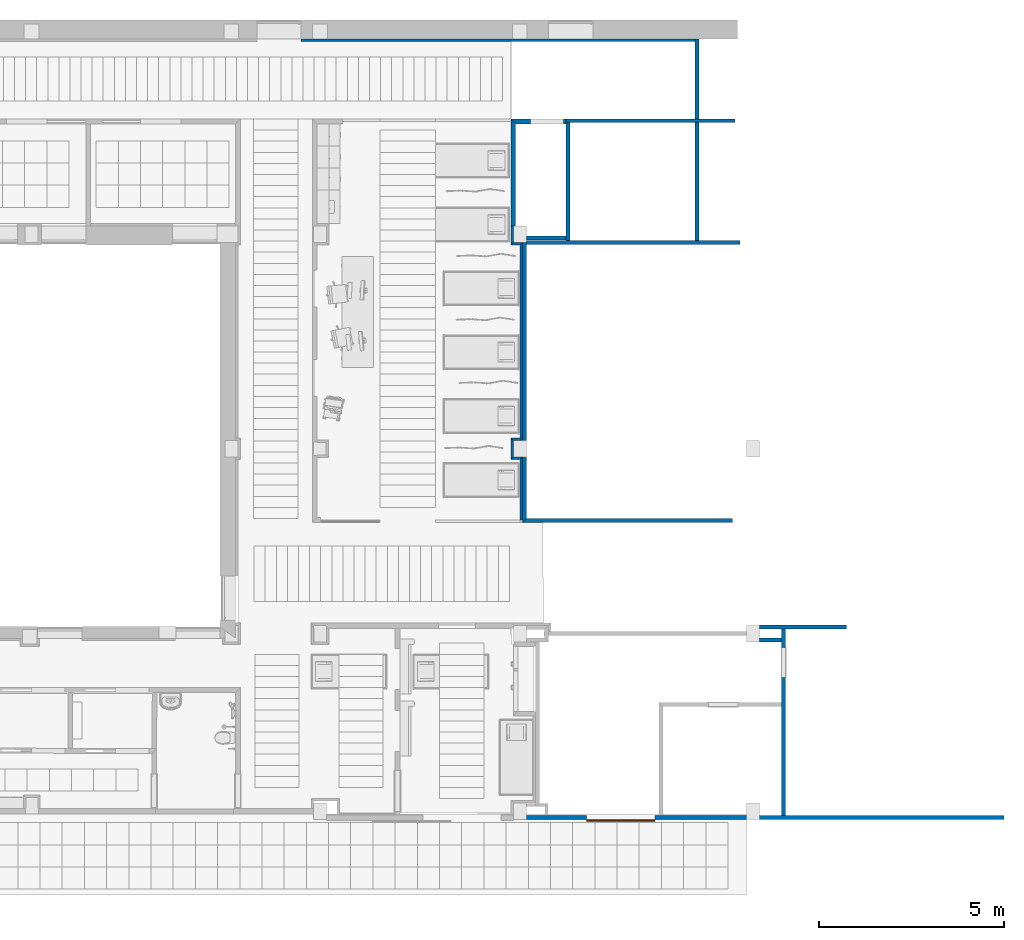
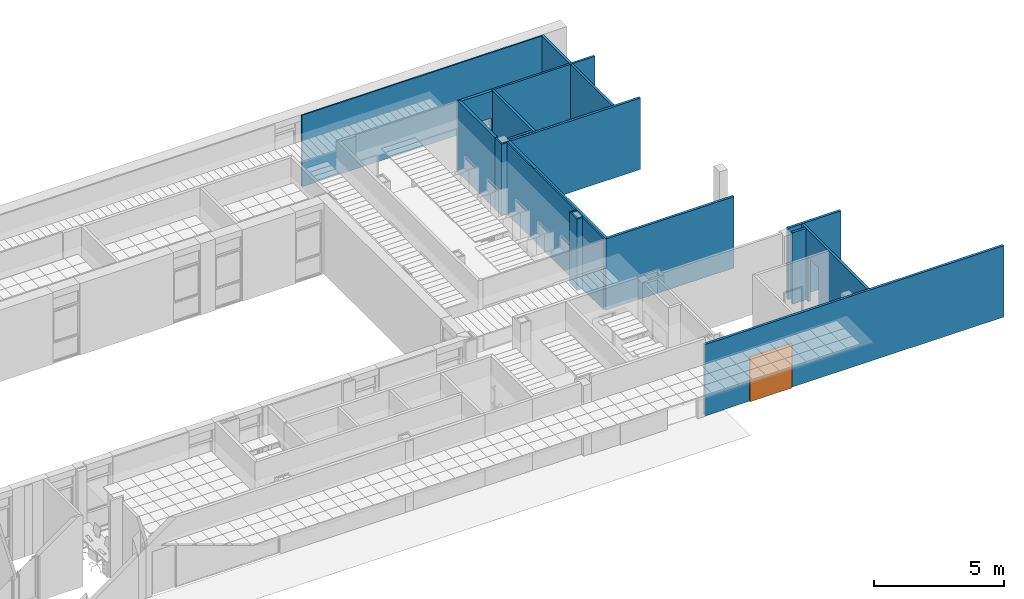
# One storey, part 46 of 68: 21 walls, 1 proxy, 3 openings.
"""IFC2X3 building model written with IfcOpenShell, lengths in millimetres."""

from ifc_helpers import new_model, entity, si_unit, converted_unit, derived_unit, money_unit, direction, frame, origin_with_axes, origin_2d_with_axis, place, context, subcontext, project, spatial, polyline, rectangle, outline, extrude, faceted_brep, material, layer, layer_set, layer_usage, type_object, element, fill, save


model = new_model("IFC2X3")

# Units and contexts
model_context = context("Model", 3, precision=0.01, world=origin_with_axes(), true_north=direction((0.0, 1.0)))
body_context = subcontext(model_context, "Body", "Model", "MODEL_VIEW")
ifc_project = project(units=[si_unit("LENGTHUNIT", "METRE", prefix="MILLI"), si_unit("AREAUNIT", "SQUARE_METRE"), si_unit("VOLUMEUNIT", "CUBIC_METRE"), converted_unit("PLANEANGLEUNIT", "DEGREE", entity("IfcPlaneAngleMeasure", 0.0174532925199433), si_unit("PLANEANGLEUNIT", "RADIAN"), dimensions=[0, 0, 0, 0, 0, 0, 0]), money_unit("USD"), converted_unit("TIMEUNIT", "Year", entity("IfcTimeMeasure", 31557600.0), si_unit("TIMEUNIT", "SECOND"), dimensions=[0, 0, 1, 0, 0, 0, 0]), si_unit("MASSUNIT", "GRAM", prefix="KILO"), si_unit("THERMODYNAMICTEMPERATUREUNIT", "DEGREE_CELSIUS"), si_unit("LUMINOUSINTENSITYUNIT", "LUMEN"), si_unit("ENERGYUNIT", "JOULE", prefix="MEGA"), derived_unit("THERMALCONDUCTANCEUNIT", [(si_unit("POWERUNIT", "WATT"), 1), (si_unit("LENGTHUNIT", "METRE"), -1), (si_unit("THERMODYNAMICTEMPERATUREUNIT", "KELVIN"), -1)]), derived_unit("SPECIFICHEATCAPACITYUNIT", [(si_unit("ENERGYUNIT", "JOULE"), 1), (si_unit("MASSUNIT", "GRAM", prefix="KILO"), -1), (si_unit("THERMODYNAMICTEMPERATUREUNIT", "KELVIN"), -1)]), derived_unit("MASSDENSITYUNIT", [(si_unit("MASSUNIT", "GRAM", prefix="KILO"), 1), (si_unit("VOLUMEUNIT", "CUBIC_METRE"), -1)])], contexts=[model_context])

# Site, building, storey
site_placement = place(None, origin_with_axes())
site = spatial("IfcSite", under=ifc_project, at=site_placement, Name="Sitio", CompositionType="ELEMENT")
building_placement = place(site_placement, origin_with_axes())
building = spatial("IfcBuilding", under=site, at=building_placement, Name="Construcción", CompositionType="ELEMENT")
storey_placement = place(building_placement, origin_with_axes())
storey = spatial("IfcBuildingStorey", under=building, at=storey_placement, Name="PLANTA 1ª", CompositionType="ELEMENT", Elevation=0.0)

# Wall, opening
ifc_material_1 = material(Name="Panel de Yeso Laminado")
ifc_layer_1 = layer(ifc_material_1, 13.0, ventilated="UNKNOWN")
ifc_layer_2 = layer(ifc_material_1, 13.0, ventilated="UNKNOWN")
ifc_material_2 = material(Name="ARQ_AI033_Aillament_Llana_De_Roca")
ifc_layer_3 = layer(ifc_material_2, 70.0, ventilated="UNKNOWN")
ifc_layer_4 = layer(ifc_material_1, 13.0, ventilated="UNKNOWN")
ifc_layer_5 = layer(ifc_material_1, 13.0, ventilated="UNKNOWN")
ifc_material_3 = material(Name="ARQ_EN271_Camara_Aire")
ifc_layer_6 = layer(ifc_material_3, 6.0, ventilated="UNKNOWN")
ifc_material_4 = material(Name="ARQ_FU093_Panellat_HPL")
ifc_layer_7 = layer(ifc_material_4, 6.0, ventilated="UNKNOWN")
ifc_layer_set_1 = layer_set([ifc_layer_1, ifc_layer_2, ifc_layer_3, ifc_layer_4, ifc_layer_5, ifc_layer_6, ifc_layer_7], Name="CR Pladur 70 HPL 1 cara")
ifc_layer_usage_1 = layer_usage(ifc_layer_set_1, "AXIS2", "POSITIVE", -134.0)
wall_type_1 = type_object("IfcWallType", Name="CR Pladur 70 HPL 1 cara 134", PredefinedType="NOTDEFINED")
wall_1_placement = place(storey_placement, frame((5763.890995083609, 1700.853055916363, 0.0), z_axis=(0.0, 0.0, 1.0), x_axis=(1.0, 0.0, 0.0)))
wall_1 = element("IfcWallStandardCase", 1, at=wall_1_placement, inside=storey, type_object=wall_type_1, material=ifc_layer_usage_1, Name="MS-212", context=body_context, shape_type="SweptSolid", body=[
    extrude(outline(polyline([(121.9999999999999, -133.9999999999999), (1490.000000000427, -133.9999999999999), (1490.000000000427, 0.0), (0.0, 0.0), (121.9999999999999, -133.9999999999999)])), origin_with_axes(), (0.0, 0.0, 1.0), 3350.0),
])
opening_1_placement = place(wall_1_placement, frame((973.4203323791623, 0.0, 0.0), z_axis=(0.0, 0.0, 1.0), x_axis=(1.0, 0.0, 0.0)))
element("IfcOpeningElement", 2, at=opening_1_placement, cuts=wall_1, Name="P-02", context=body_context, shape_type="SweptSolid", body=[
    extrude(rectangle(XDim=900.0000000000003, YDim=2100.0, at=origin_2d_with_axis()), frame((0.0, -133.9999999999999, 1050.0), z_axis=(0.0, -1.0, 0.0), x_axis=(1.0, 0.0, 0.0)), (0.0, 0.0, -1.0), 402.0),
])

# Walls
ifc_layer_8 = layer(ifc_material_1, 13.0, ventilated="UNKNOWN")
ifc_layer_9 = layer(ifc_material_1, 13.0, ventilated="UNKNOWN")
ifc_layer_10 = layer(ifc_material_2, 70.0, ventilated="UNKNOWN")
ifc_layer_11 = layer(ifc_material_1, 13.0, ventilated="UNKNOWN")
ifc_layer_12 = layer(ifc_material_1, 13.0, ventilated="UNKNOWN")
ifc_layer_set_2 = layer_set([ifc_layer_8, ifc_layer_9, ifc_layer_10, ifc_layer_11, ifc_layer_12], Name="Pladur 70 / 2N+2N")
ifc_layer_usage_2 = layer_usage(ifc_layer_set_2, "AXIS2", "POSITIVE", -122.0)
wall_type_2 = type_object("IfcWallType", Name="Pladur 70 / 2N+2N 122", PredefinedType="NOTDEFINED")
wall_2_placement = place(storey_placement, frame((5763.890995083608, -1188.975659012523, 0.0), z_axis=(0.0, 0.0, 1.0), x_axis=(0.0, 1.0, 0.0)))
element("IfcWallStandardCase", 3, at=wall_2_placement, inside=storey, type_object=wall_type_2, material=ifc_layer_usage_2, Name="MS-212", context=body_context, shape_type="SweptSolid", body=[
    extrude(outline(polyline([(0.0, -121.9999999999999), (2755.828714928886, -121.9999999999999), (2889.828714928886, 0.0), (0.0, 0.0), (0.0, -121.9999999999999)])), origin_with_axes(), (0.0, 0.0, 1.0), 3350.0),
])
ifc_material_5 = material(Name="ARQ_AM246_Arrebossat_De_Guix")
ifc_layer_13 = layer(ifc_material_5, 10.0, ventilated="UNKNOWN")
ifc_material_6 = material(Name="ARQ_CE217_Gero")
ifc_layer_14 = layer(ifc_material_6, 90.0, ventilated="UNKNOWN")
ifc_layer_15 = layer(ifc_material_5, 10.0, ventilated="UNKNOWN")
ifc_layer_set_3 = layer_set([ifc_layer_13, ifc_layer_14, ifc_layer_15], Name="CR Enva Totxana")
ifc_layer_usage_3 = layer_usage(ifc_layer_set_3, "AXIS2", "POSITIVE", 0.0)
wall_type_3 = type_object("IfcWallType", Name="CR Enva Totxana 110", PredefinedType="NOTDEFINED")
wall_3_placement = place(storey_placement, frame((6178.89099508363, -9207.420994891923, 0.0), z_axis=(0.0, 0.0, 1.0), x_axis=(1.0, 0.0, 0.0)))
element("IfcWallStandardCase", 4, at=wall_3_placement, inside=storey, type_object=wall_type_3, material=ifc_layer_usage_3, Name="MS-206", context=body_context, shape_type="SweptSolid", body=[
    extrude(outline(polyline([(-110.0000000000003, 0.0), (5580.000000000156, 0.0), (5580.000000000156, 109.9999999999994), (0.0, 109.9999999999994), (-110.0000000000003, 0.0)])), origin_with_axes(), (0.0, 0.0, 1.0), 3350.0),
])

# Wall, opening, proxy
ifc_layer_usage_4 = layer_usage(ifc_layer_set_3, "AXIS2", "POSITIVE", 0.0)
wall_4_placement = place(storey_placement, frame((5828.891047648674, -17238.97565901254, 0.0), z_axis=(0.0, 0.0, 1.0), x_axis=(1.0, 0.0, 0.0)))
wall_4 = element("IfcWallStandardCase", 5, at=wall_4_placement, inside=storey, type_object=wall_type_3, material=ifc_layer_usage_4, Name="MS-201", context=body_context, shape_type="SweptSolid", body=[
    extrude(outline(polyline([(0.0, 0.0), (13264.22835530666, 0.0), (13264.22835530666, 109.9999999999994), (0.0, 109.9999999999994), (0.0, 0.0)])), origin_with_axes(), (0.0, 0.0, 1.0), 3350.0),
])
opening_2_placement = place(wall_4_placement, frame((2898.684403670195, 0.0, 0.0), z_axis=(0.0, 0.0, 1.0), x_axis=(1.0, 0.0, 0.0)))
opening_2 = element("IfcOpeningElement", 6, at=opening_2_placement, cuts=wall_4, Name="PF-12D", context=body_context, shape_type="SweptSolid", body=[
    extrude(rectangle(XDim=1845.258154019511, YDim=2100.0, at=origin_2d_with_axis()), frame((0.0, 109.9999999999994, 1050.0), z_axis=(0.0, 1.0, 0.0), x_axis=(1.0, 0.0, 0.0)), (0.0, 0.0, -1.0), 329.9999999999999),
])
building_element_proxy_type = type_object("IfcBuildingElementProxyType", Name="Puerta Corredera Exterior 27", PredefinedType="NOTDEFINED")
proxy_placement = place(opening_2_placement, frame((922.6290770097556, 0.0, 0.0), z_axis=(0.0, 0.0, 1.0), x_axis=(-1.0, 0.0, 0.0)))
proxy = element("IfcBuildingElementProxy", 7, at=proxy_placement, inside=storey, type_object=building_element_proxy_type, Name="PF-12D", context=body_context, shape_type="Brep", body=[
    faceted_brep([(0.0, 45.00000000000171, 0.0), (1845.258154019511, 44.99999999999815, 0.0), (1845.258154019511, 4.999999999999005, 0.0), (0.0, 4.999999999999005, 0.0), (0.0, 44.99999999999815, 2100.0), (1845.258154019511, 44.99999999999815, 2100.0), (1845.258154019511, 4.999999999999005, 2100.0), (0.0, 4.999999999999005, 2100.0)], [[[0, 1, 2, 3]], [[0, 4, 5, 1]], [[1, 5, 6, 2]], [[3, 2, 6, 7]], [[4, 0, 3, 7]], [[5, 4, 7, 6]]]),
])
fill(opening_2, proxy)

# Walls
ifc_layer_usage_5 = layer_usage(ifc_layer_set_3, "AXIS2", "POSITIVE", 0.0)
wall_5_placement = place(storey_placement, frame((6178.890995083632, -1568.975823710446, 0.0), z_axis=(0.0, 0.0, 1.0), x_axis=(1.0, 0.0, 0.0)))
element("IfcWallStandardCase", 8, at=wall_5_placement, inside=storey, type_object=wall_type_3, material=ifc_layer_usage_5, Name="MS-204", context=body_context, shape_type="SweptSolid", body=[
    extrude(outline(polyline([(0.0, 0.0), (1075.000000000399, 0.0), (1075.000000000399, 110.0000000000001), (0.0, 110.0000000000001), (0.0, 0.0)])), origin_with_axes(), (0.0, 0.0, 1.0), 3350.0),
])
ifc_layer_usage_6 = layer_usage(ifc_layer_set_3, "AXIS2", "POSITIVE", 0.0)
wall_6_placement = place(storey_placement, frame((7363.890995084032, -1688.97582371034, 0.0), z_axis=(0.0, 0.0, 1.0), x_axis=(0.0, 1.0, 0.0)))
element("IfcWallStandardCase", 9, at=wall_6_placement, inside=storey, type_object=wall_type_3, material=ifc_layer_usage_6, Name="MS-203", context=body_context, shape_type="SweptSolid", body=[
    extrude(outline(polyline([(109.9999999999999, 0.0), (3299.828879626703, 0.0), (3299.828879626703, 110.0000000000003), (109.9999999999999, 110.0000000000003), (109.9999999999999, 0.0)])), origin_with_axes(), (0.0, 0.0, 1.0), 3350.0),
])
ifc_layer_usage_7 = layer_usage(ifc_layer_set_3, "AXIS2", "POSITIVE", 0.0)
wall_7_placement = place(storey_placement, frame((6178.890995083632, -1688.97582371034, 0.0), z_axis=(0.0, 0.0, 1.0), x_axis=(1.0, 0.0, 0.0)))
element("IfcWallStandardCase", 10, at=wall_7_placement, inside=storey, type_object=wall_type_3, material=ifc_layer_usage_7, Name="MS-204", context=body_context, shape_type="SweptSolid", body=[
    extrude(outline(polyline([(0.0, 0.0), (5769.99999999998, 0.0), (5769.99999999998, 109.9999999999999), (0.0, 109.9999999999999), (0.0, 0.0)])), origin_with_axes(), (0.0, 0.0, 1.0), 3350.0),
])
ifc_layer_usage_8 = layer_usage(ifc_layer_set_3, "AXIS2", "POSITIVE", 0.0)
wall_8_placement = place(storey_placement, frame((10843.89099508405, -1688.97582371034, 0.0), z_axis=(0.0, 0.0, 1.0), x_axis=(0.0, 1.0, 0.0)))
element("IfcWallStandardCase", 11, at=wall_8_placement, inside=storey, type_object=wall_type_3, material=ifc_layer_usage_8, Name="MS-203", context=body_context, shape_type="SweptSolid", body=[
    extrude(outline(polyline([(110.0000000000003, 0.0), (5552.43001029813, 0.0), (5552.43001029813, 109.9999999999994), (110.0000000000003, 109.9999999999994), (110.0000000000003, 0.0)])), origin_with_axes(), (0.0, 0.0, 1.0), 3350.0),
])

# Wall, opening
ifc_layer_usage_9 = layer_usage(ifc_layer_set_3, "AXIS2", "POSITIVE", 0.0)
wall_9_placement = place(storey_placement, frame((13078.89099508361, -12088.97582371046, 0.0), z_axis=(0.0, 0.0, 1.0), x_axis=(0.0, -1.0, 0.0)))
wall_9 = element("IfcWallStandardCase", 12, at=wall_9_placement, inside=storey, type_object=wall_type_3, material=ifc_layer_usage_9, Name="MS-207", context=body_context, shape_type="SweptSolid", body=[
    extrude(outline(polyline([(0.0, 0.0), (5039.999835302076, 0.0), (5039.999835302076, 109.9999999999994), (0.0, 109.9999999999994), (0.0, 0.0)])), origin_with_axes(), (0.0, 0.0, 1.0), 3350.0),
])
opening_3_placement = place(wall_9_placement, frame((904.6702932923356, 0.0, 0.0), z_axis=(0.0, 0.0, 1.0), x_axis=(1.0, 0.0, 0.0)))
element("IfcOpeningElement", 13, at=opening_3_placement, cuts=wall_9, Name="PF-09D", context=body_context, shape_type="SweptSolid", body=[
    extrude(rectangle(XDim=800.0000000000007, YDim=2100.0, at=origin_2d_with_axis()), frame((0.0, -109.9999999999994, 1050.0), z_axis=(0.0, -1.0, 0.0), x_axis=(-1.0, 0.0, 0.0)), (0.0, 0.0, -1.0), 329.9999999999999),
    extrude(rectangle(XDim=844.0000000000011, YDim=2122.0, at=origin_2d_with_axis()), frame((0.0, 0.0, 1061.0), z_axis=(0.0, -1.0, 0.0), x_axis=(-1.0, 0.0, 0.0)), (0.0, 0.0, 1.0), 110.0),
    extrude(rectangle(XDim=844.0000000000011, YDim=2122.0, at=origin_2d_with_axis()), frame((0.0, 109.9999999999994, 1061.0), z_axis=(0.0, 1.0, 0.0), x_axis=(-1.0, 0.0, 0.0)), (0.0, 0.0, 1.0), 110.0),
])

# Walls
ifc_layer_usage_10 = layer_usage(ifc_layer_set_3, "AXIS2", "POSITIVE", 0.0)
wall_10_placement = place(storey_placement, frame((12478.8909950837, -12088.97582371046, 0.0), z_axis=(0.0, 0.0, 1.0), x_axis=(1.0, 0.0, 0.0)))
element("IfcWallStandardCase", 14, at=wall_10_placement, inside=storey, type_object=wall_type_3, material=ifc_layer_usage_10, Name="MS-206", context=body_context, shape_type="SweptSolid", body=[
    extrude(outline(polyline([(0.0, 0.0), (2362.291522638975, 0.0), (2362.291522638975, 109.9999999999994), (0.0, 109.9999999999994), (0.0, 0.0)])), origin_with_axes(), (0.0, 0.0, 1.0), 3350.0),
])
ifc_layer_usage_11 = layer_usage(ifc_layer_set_3, "AXIS2", "POSITIVE", 0.0)
wall_11_placement = place(storey_placement, frame((12478.8909950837, -12438.97582369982, 0.0), z_axis=(0.0, 0.0, 1.0), x_axis=(1.0, 0.0, 0.0)))
element("IfcWallStandardCase", 15, at=wall_11_placement, inside=storey, type_object=wall_type_3, material=ifc_layer_usage_11, Name="MS-206", context=body_context, shape_type="SweptSolid", body=[
    extrude(outline(polyline([(0.0, 0.0), (599.999999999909, 0.0), (599.999999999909, 109.9999999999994), (0.0, 109.9999999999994), (0.0, 0.0)])), origin_with_axes(), (0.0, 0.0, 1.0), 3350.0),
])
ifc_layer_usage_12 = layer_usage(ifc_layer_set_3, "AXIS2", "POSITIVE", 0.0)
wall_12_placement = place(storey_placement, frame((6178.89099508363, -9207.420994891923, 0.0), z_axis=(0.0, 0.0, 1.0), x_axis=(0.0, 1.0, 0.0)))
element("IfcWallStandardCase", 16, at=wall_12_placement, inside=storey, type_object=wall_type_3, material=ifc_layer_usage_12, Name="MS-203", context=body_context, shape_type="SweptSolid", body=[
    extrude(outline(polyline([(109.9999999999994, 0.0), (7568.445171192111, 0.0), (7568.445171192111, 110.0000000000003), (0.0, 110.0000000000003), (109.9999999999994, 0.0)])), origin_with_axes(), (0.0, 0.0, 1.0), 3350.0),
])
ifc_layer_16 = layer(ifc_material_5, 10.0, ventilated="UNKNOWN")
ifc_layer_17 = layer(ifc_material_6, 70.0, ventilated="UNKNOWN")
ifc_layer_18 = layer(ifc_material_5, 10.0, ventilated="UNKNOWN")
ifc_layer_set_4 = layer_set([ifc_layer_16, ifc_layer_17, ifc_layer_18], Name="CR Enva Totxaneta")
ifc_layer_usage_13 = layer_usage(ifc_layer_set_4, "AXIS2", "POSITIVE", 0.0)
wall_type_4 = type_object("IfcWallType", Name="CR Enva Totxaneta 90", PredefinedType="NOTDEFINED")
wall_13_placement = place(storey_placement, frame((7253.890995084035, 1610.853055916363, 0.0), z_axis=(0.0, 0.0, 1.0), x_axis=(1.0, 0.0, 0.0)))
element("IfcWallStandardCase", 17, at=wall_13_placement, inside=storey, type_object=wall_type_4, material=ifc_layer_usage_13, Name="MS-204", context=body_context, shape_type="SweptSolid", body=[
    extrude(outline(polyline([(0.0, 0.0), (4572.292870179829, 0.0), (4572.292870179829, 90.00000000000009), (0.0, 90.00000000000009), (0.0, 0.0)])), origin_with_axes(), (0.0, 0.0, 1.0), 3350.0),
])
ifc_layer_19 = layer(ifc_material_1, 13.0, ventilated="UNKNOWN")
ifc_layer_20 = layer(ifc_material_1, 13.0, ventilated="UNKNOWN")
ifc_layer_21 = layer(ifc_material_2, 40.0, ventilated="UNKNOWN")
ifc_layer_set_5 = layer_set([ifc_layer_19, ifc_layer_20, ifc_layer_21], Name="Pladur Tras 40 / 2N")
ifc_layer_usage_14 = layer_usage(ifc_layer_set_5, "AXIS2", "POSITIVE", 0.0)
wall_type_5 = type_object("IfcWallType", Name="Pladur Tras 40 / 2N 66", PredefinedType="NOTDEFINED")
wall_14_placement = place(storey_placement, frame((5763.890995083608, -1703.975823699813, 0.0), z_axis=(0.0, 0.0, 1.0), x_axis=(1.0, 0.0, 0.0)))
element("IfcWallStandardCase", 18, at=wall_14_placement, inside=storey, type_object=wall_type_5, material=ifc_layer_usage_14, Name="MS-212", context=body_context, shape_type="SweptSolid", body=[
    extrude(outline(polyline([(0.0, 0.0), (239.000000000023, 0.0), (305.0000000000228, 66.00000000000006), (65.99999999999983, 66.00000000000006), (0.0, 0.0)])), origin_with_axes(), (0.0, 0.0, 1.0), 3350.0),
])
ifc_layer_usage_15 = layer_usage(ifc_layer_set_5, "AXIS2", "NEGATIVE", 0.0)
wall_15_placement = place(storey_placement, frame((5763.890995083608, -6923.975659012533, 0.0), z_axis=(0.0, 0.0, 1.0), x_axis=(1.0, 0.0, 0.0)))
element("IfcWallStandardCase", 19, at=wall_15_placement, inside=storey, type_object=wall_type_5, material=ifc_layer_usage_15, Name="MS-212", context=body_context, shape_type="SweptSolid", body=[
    extrude(outline(polyline([(65.99999999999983, -65.99999999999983), (305.0000000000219, -65.99999999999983), (239.0000000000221, 0.0), (0.0, 0.0), (65.99999999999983, -65.99999999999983)])), origin_with_axes(), (0.0, 0.0, 1.0), 3350.0),
])
ifc_layer_usage_16 = layer_usage(ifc_layer_set_5, "AXIS2", "NEGATIVE", 66.0)
wall_16_placement = place(storey_placement, frame((6068.89099508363, -9137.420994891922, 0.0), z_axis=(0.0, 0.0, 1.0), x_axis=(0.0, 1.0, 0.0)))
element("IfcWallStandardCase", 20, at=wall_16_placement, inside=storey, type_object=wall_type_5, material=ifc_layer_usage_16, Name="MS-212", context=body_context, shape_type="SweptSolid", body=[
    extrude(outline(polyline([(0.0, 0.0), (1699.445171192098, 0.0), (1633.445171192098, 65.99999999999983), (0.0, 65.99999999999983), (0.0, 0.0)])), origin_with_axes(), (0.0, 0.0, 1.0), 3350.0),
])
ifc_layer_usage_17 = layer_usage(ifc_layer_set_5, "AXIS2", "NEGATIVE", 66.0)
wall_17_placement = place(storey_placement, frame((6068.89099508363, -6923.975659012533, 0.0), z_axis=(0.0, 0.0, 1.0), x_axis=(0.0, 1.0, 0.0)))
element("IfcWallStandardCase", 21, at=wall_17_placement, inside=storey, type_object=wall_type_5, material=ifc_layer_usage_17, Name="MS-212", context=body_context, shape_type="SweptSolid", body=[
    extrude(outline(polyline([(-65.99999999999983, 0.0), (5285.99983531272, 0.0), (5219.99983531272, 65.99999999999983), (0.0, 65.99999999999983), (-65.99999999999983, 0.0)])), origin_with_axes(), (0.0, 0.0, 1.0), 3350.0),
])
ifc_layer_usage_18 = layer_usage(ifc_layer_set_5, "AXIS2", "POSITIVE", 0.0)
wall_18_placement = place(storey_placement, frame((5763.890995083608, -1188.975659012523, 0.0), z_axis=(0.0, 0.0, 1.0), x_axis=(0.0, -1.0, 0.0)))
element("IfcWallStandardCase", 22, at=wall_18_placement, inside=storey, type_object=wall_type_5, material=ifc_layer_usage_18, Name="MS-212", context=body_context, shape_type="SweptSolid", body=[
    extrude(outline(polyline([(0.0, 0.0), (515.0001646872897, 0.0), (449.0001646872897, 65.99999999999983), (0.0, 65.99999999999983), (0.0, 0.0)])), origin_with_axes(), (0.0, 0.0, 1.0), 3350.0),
])
ifc_layer_usage_19 = layer_usage(ifc_layer_set_5, "AXIS2", "POSITIVE", 0.0)
wall_19_placement = place(storey_placement, frame((5763.890995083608, -7503.975823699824, 0.0), z_axis=(0.0, 0.0, 1.0), x_axis=(1.0, 0.0, 0.0)))
element("IfcWallStandardCase", 23, at=wall_19_placement, inside=storey, type_object=wall_type_5, material=ifc_layer_usage_19, Name="MS-212", context=body_context, shape_type="SweptSolid", body=[
    extrude(outline(polyline([(0.0, 0.0), (239.0000000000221, 0.0), (305.0000000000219, 65.99999999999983), (65.99999999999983, 65.99999999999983), (0.0, 0.0)])), origin_with_axes(), (0.0, 0.0, 1.0), 3350.0),
])
ifc_layer_usage_20 = layer_usage(ifc_layer_set_5, "AXIS2", "POSITIVE", 0.0)
wall_20_placement = place(storey_placement, frame((5763.890995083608, -6923.975659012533, 0.0), z_axis=(0.0, 0.0, 1.0), x_axis=(0.0, -1.0, 0.0)))
element("IfcWallStandardCase", 24, at=wall_20_placement, inside=storey, type_object=wall_type_5, material=ifc_layer_usage_20, Name="MS-212", context=body_context, shape_type="SweptSolid", body=[
    extrude(outline(polyline([(0.0, 0.0), (580.0001646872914, 0.0), (514.0001646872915, 65.99999999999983), (65.99999999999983, 65.99999999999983), (0.0, 0.0)])), origin_with_axes(), (0.0, 0.0, 1.0), 3350.0),
])
ifc_layer_22 = layer(ifc_material_5, 20.0, ventilated="UNKNOWN")
ifc_layer_23 = layer(ifc_material_3, 40.0, ventilated="UNKNOWN")
ifc_layer_set_6 = layer_set([ifc_layer_22, ifc_layer_23], Name="CR Revestiment HPL")
ifc_layer_usage_21 = layer_usage(ifc_layer_set_6, "AXIS2", "POSITIVE", 0.0)
wall_type_6 = type_object("IfcWallType", Name="CR Revestiment HPL 60", PredefinedType="NOTDEFINED")
wall_21_placement = place(storey_placement, frame((89.47019756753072, 3803.454186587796, 0.0), z_axis=(0.0, 0.0, 1.0), x_axis=(1.0, 0.0, 0.0)))
element("IfcWallStandardCase", 25, at=wall_21_placement, inside=storey, type_object=wall_type_6, material=ifc_layer_usage_21, Name="MS-214", context=body_context, shape_type="SweptSolid", body=[
    extrude(outline(polyline([(0.0, 0.0), (10644.42079751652, 0.0), (10644.42079751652, 60.00000000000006), (0.0, 60.00000000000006), (0.0, 0.0)])), origin_with_axes(), (0.0, 0.0, 1.0), 3350.0),
])

save(model, "model.ifc")
